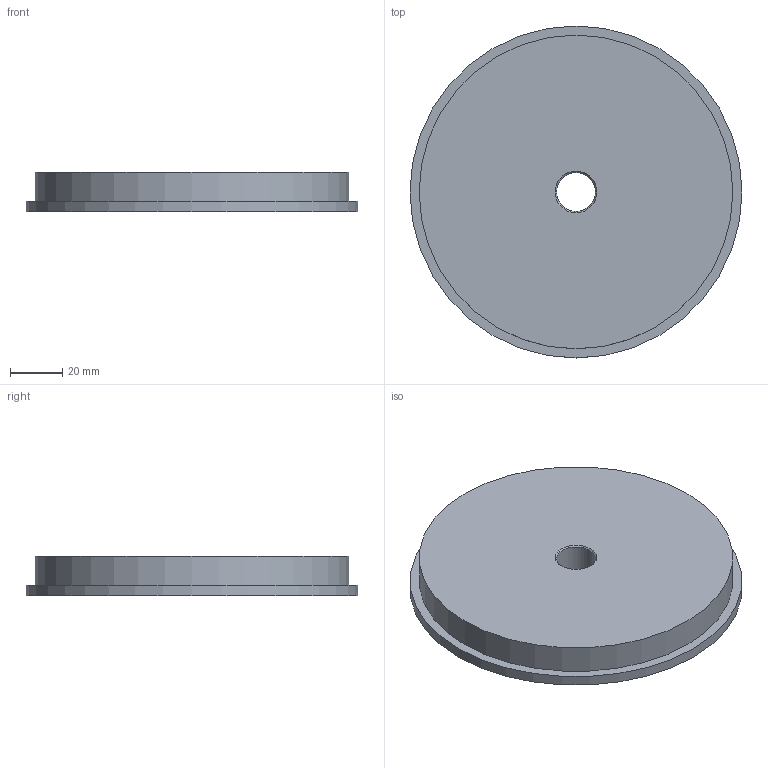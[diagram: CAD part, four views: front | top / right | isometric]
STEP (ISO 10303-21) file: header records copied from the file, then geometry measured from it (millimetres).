
FILE_DESCRIPTION((''),'2;1');
FILE_NAME('W:\Technik\Konstruktion\CAD-Daten\Vakuumsauger\270_\270.173\270.173.stp','2010-07-19T12:15:06',('moswald'),(''),'Autodesk Inventor 2009','Autodesk Inventor 2009','');
FILE_SCHEMA(('AUTOMOTIVE_DESIGN { 1 0 10303 214 1 1 1 1 }'));
Length unit declared in the file: millimetre
Products named in the file (1): 270.173
Bounding box: 127 x 127 x 15 mm (x, y, z)
Volume: 172431.4 mm3; surface area: 31404.6 mm2
Topology: 1 solids, 1 shells, 8 faces, 14 edges, 9 vertices
Faces by surface type: plane 3, cone 2, cylinder 2, bspline 1
Full cylindrical faces by diameter (mm): 120 x1, 127 x1
Entity records: 207 total; most frequent: CARTESIAN_POINT 42, DIRECTION 32, AXIS2_PLACEMENT_3D 16, ORIENTED_EDGE 16, EDGE_LOOP 16, VERTEX_POINT 8, CIRCLE 8, EDGE_CURVE 8
